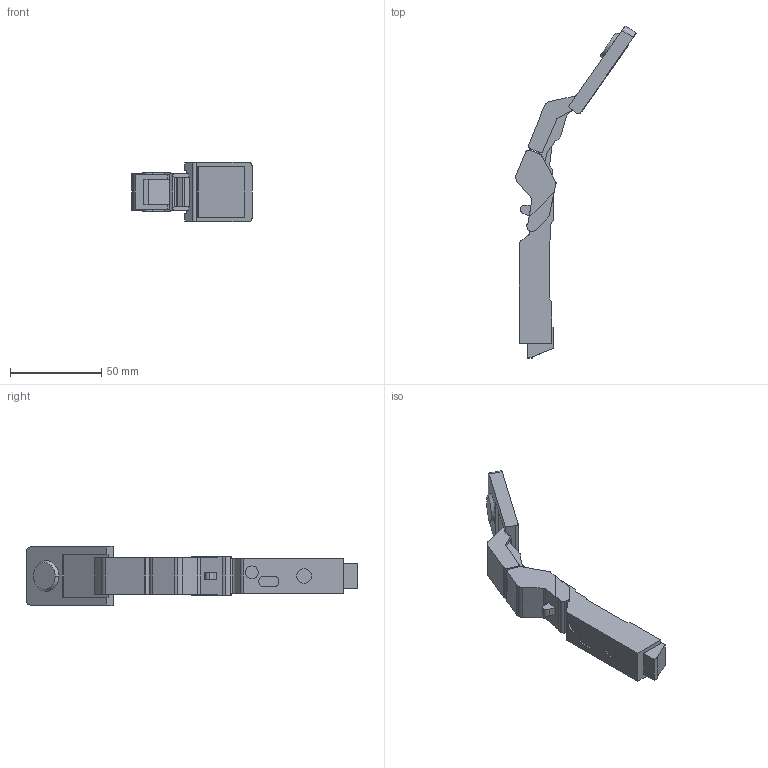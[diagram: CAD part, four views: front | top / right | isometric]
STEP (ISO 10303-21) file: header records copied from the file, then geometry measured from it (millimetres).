
FILE_DESCRIPTION (( 'STEP AP214' ), '1' );
FILE_NAME ('Scharnier-Mirro_offen-125°_Klebesockel.STEP', '2014-02-21T08:46:16', ( '' ), ( '' ), 'SwSTEP 2.0', 'SolidWorks 2013', '' );
FILE_SCHEMA (( 'AUTOMOTIVE_DESIGN' ));
Length unit declared in the file: millimetre
Products named in the file (1): Scharnier-Mirro_offen-125°_Klebesockel
Bounding box: 65.94 x 181.49 x 32.5 mm (x, y, z)
Volume: 53880.4 mm3; surface area: 15786.1 mm2
Topology: 1 solids, 1 shells, 142 faces, 392 edges, 256 vertices
Faces by surface type: plane 81, cylinder 51, sphere 6, cone 2, bspline 2
Entity records: 4547 total; most frequent: CARTESIAN_POINT 853, ORIENTED_EDGE 776, DIRECTION 762, EDGE_CURVE 388, VECTOR 272, LINE 272, VERTEX_POINT 254, AXIS2_PLACEMENT_3D 245
